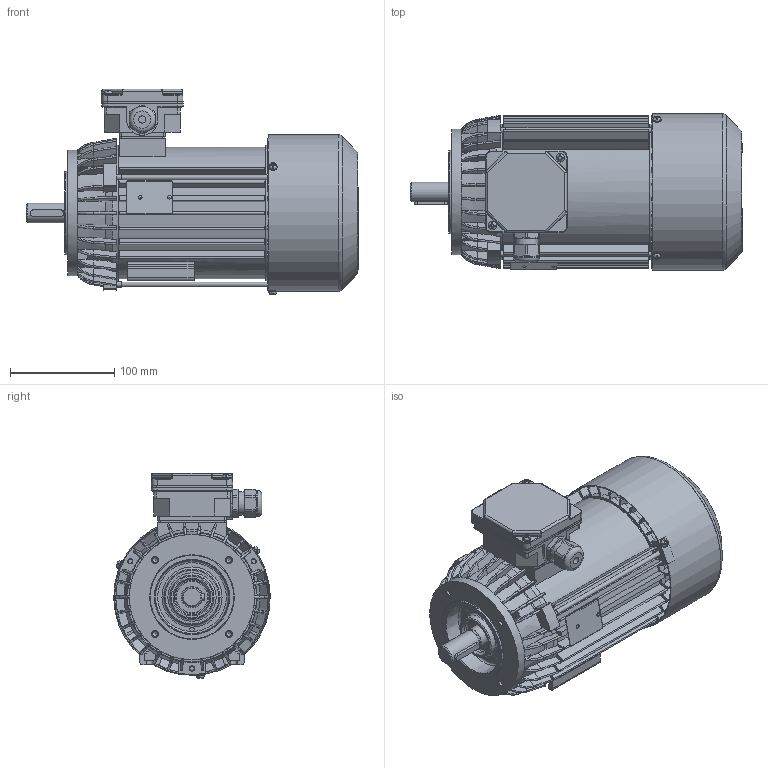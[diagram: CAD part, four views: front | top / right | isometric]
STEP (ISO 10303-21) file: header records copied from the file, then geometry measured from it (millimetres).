
FILE_DESCRIPTION( ( 'Unknown' ), '1' );
FILE_NAME( 'G:/Poczta Tk-1/STP/w.m.80/Sh80/SKh80x-.D2.stp', 'Unknown', ( 'K. Szlosek' ), ( 'BESEL S.A.' ), 'PSStep 17.0.49', 'Unknown', ' ' );
FILE_SCHEMA( ( 'AUTOMOTIVE_DESIGN { 1 0 10303 214 1 1 1 1 }' ) );
Length unit declared in the file: millimetre
Products named in the file (29): skrznka zaciskowa trójfazowa ; K4-2820 Uszczelka nr 2 Sh71,80; Dławnica M20x1,5; K2-0859 Podstawa skrzynki 6-cio zaciskowej; K2-0860 Pokrywka skrzynki zaciskowej; Assem1; K1-1257 Kadłub S(E,M)h80-C i D; Wkręt samogwintujący M4x16; Wkręt samogwintujący M4x10; K4-2320 Uszczelka nr 1 Sh71,80; Wpust A6x6x32; K2-1715 Przewietrznik; Nitokołek A 2x6; Łożysko 6204; Śruba ściągająca E_M5x168; Tabliczka znamionowa 32x44; K3-6857 Tarcza łożyskowa P S(E,M)h80-B,D; K3-2964 Osłona przewietrznika Sh80,90; K3-5645 wał S(E,M)h80-.D; K1-1261 Tarcza kołnierzowa B14_2 w.m. 80
Assembly tree (44 placements, depth 3):
  Assem1
    K1-1257 Kadłub S(E,M)h80-C i D
    Wkręt samogwintujący M4x16  x2
    Wkręt samogwintujący M4x10  x3
    K4-2320 Uszczelka nr 1 Sh71,80
    Wpust A6x6x32
    K2-1715 Przewietrznik
    Nitokołek A 2x6  x2
    Łożysko 6204  x2
    Łożysko 6204  x2
    Łożysko 6204  x2
    Łożysko 6204  x2
    Łożysko 6204  x2
    Łożysko 6204  x2
    Łożysko 6204  x2
    Łożysko 6204  x2
    Łożysko 6204  x2
    Łożysko 6204  x2
    Śruba ściągająca E_M5x168  x3
    Tabliczka znamionowa 32x44
    K3-6857 Tarcza łożyskowa P S(E,M)h80-B,D
    K3-2964 Osłona przewietrznika Sh80,90
    K3-5645 wał S(E,M)h80-.D
    K1-1261 Tarcza kołnierzowa B14_2 w.m. 80
    skrznka zaciskowa trójfazowa 
      K4-2820 Uszczelka nr 2 Sh71,80
      Dławnica M20x1,5
      K2-0859 Podstawa skrzynki 6-cio zaciskowej
      K2-0860 Pokrywka skrzynki zaciskowej
Bounding box: 317.8 x 149.88 x 196.68 mm (x, y, z)
Volume: 892273.7 mm3; surface area: 600222.1 mm2
Topology: 43 solids, 59 shells, 2684 faces, 7566 edges, 4886 vertices
Faces by surface type: plane 1274, cylinder 789, bspline 249, torus 175, cone 161, sphere 36
Full cylindrical faces by diameter (mm): 2 x2, 2.4 x2, 3.7 x11, 4 x7, 4.2 x3, 4.5 x1, 4.6 x3, 4.8 x4, 5 x11, 5.5 x3, 7 x1, 8 x9, 18.376 x1, 18.38 x1, 18.6 x1, 19 x1, 19.3 x1, 19.5 x2, 19.6 x2, 19.9 x1, 20 x5, 20.4 x2, 22.3 x1, 25 x1, 25.5 x1, 25.6 x1, 26 x4, 28.802 x4, 30 x1, 34 x1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
Entity records: 135599 total; most frequent: CARTESIAN_POINT 53338, ORIENTED_EDGE 13500, DIRECTION 12420, EDGE_CURVE 6750, AXIS2_PLACEMENT_3D 4581, VERTEX_POINT 4516, LINE 3258, VECTOR 3258
